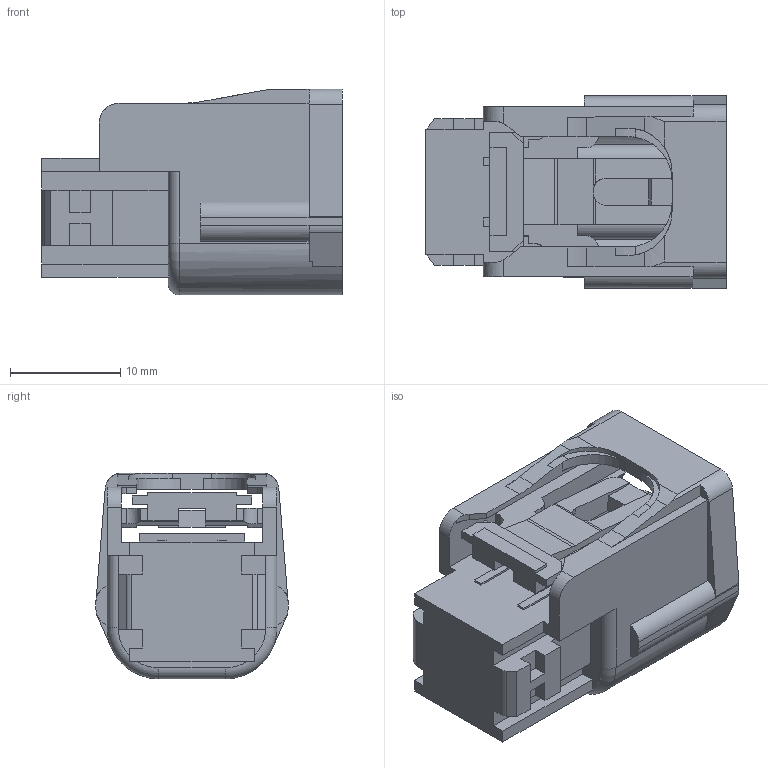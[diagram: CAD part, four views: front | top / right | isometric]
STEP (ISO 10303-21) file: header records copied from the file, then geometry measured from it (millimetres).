
FILE_DESCRIPTION(('CATIA V5 STEP','CAx-IF Rec.Pracs.--- Model Styling and Organization---1.4--- 2014-01-23'),'2;1');
FILE_NAME('\\fs0427\Server\共有情報\コネクタ開発部\特命業務\特ｰ35ｰ部品総合カタログメンテナンス\21年度\掲載用３Dモデル\ETHERNET\ETHERNET３D(トヨタ提出していないものがあるのでチェックしてください）\6098-8292.stp','2023-04-05T23:54:28+00:00',('none'),('none'),'CATIA Version 5-6 Release 2017 SP5 HF58','CATIA V5 STEP AP214','none');
FILE_SCHEMA(('AUTOMOTIVE_DESIGN { 1 0 10303 214 1 1 1 1 }'));
Length unit declared in the file: millimetre
Products named in the file (1): 6910-8292
Bounding box: 27.2 x 17.4 x 18.65 mm (x, y, z)
Volume: 4011.8 mm3; surface area: 4037.2 mm2
Topology: 1 solids, 1 shells, 238 faces, 710 edges, 470 vertices
Faces by surface type: plane 183, cylinder 53, torus 2
Entity records: 7592 total; most frequent: CARTESIAN_POINT 1472, ORIENTED_EDGE 1420, DIRECTION 1032, EDGE_CURVE 710, VECTOR 574, LINE 574, VERTEX_POINT 470, AXIS2_PLACEMENT_3D 284
